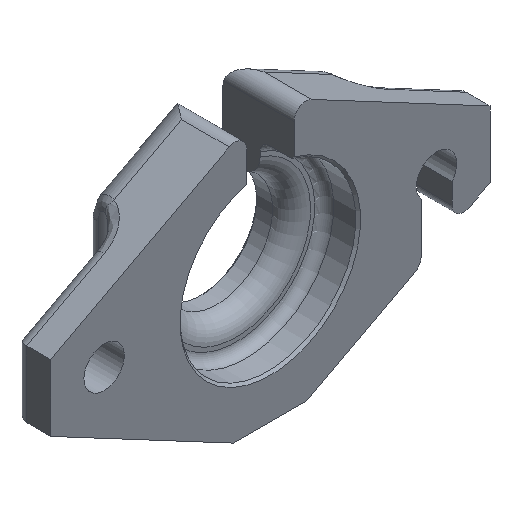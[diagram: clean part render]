
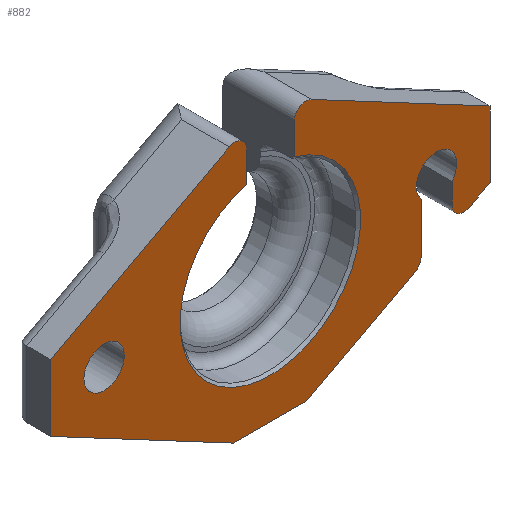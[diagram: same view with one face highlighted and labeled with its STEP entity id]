
A CAD part, isometric view. The second image highlights one B-rep face of the part: STEP entity #882.
In plain terms, the highlighted planar face has unit normal (0, -1, 0).
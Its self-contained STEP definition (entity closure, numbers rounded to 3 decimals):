
#21=FACE_BOUND('',#298,.T.);
#57=PLANE('',#965);
#75=LINE('',#1365,#143);
#95=LINE('',#1756,#163);
#97=LINE('',#1760,#165);
#98=LINE('',#1764,#166);
#99=LINE('',#1768,#167);
#100=LINE('',#1770,#168);
#101=LINE('',#1772,#169);
#102=LINE('',#1777,#170);
#103=LINE('',#1781,#171);
#104=LINE('',#1783,#172);
#105=LINE('',#1785,#173);
#106=LINE('',#1786,#174);
#143=VECTOR('',#1047,10.);
#163=VECTOR('',#1117,10.);
#165=VECTOR('',#1121,10.);
#166=VECTOR('',#1124,10.);
#167=VECTOR('',#1127,10.);
#168=VECTOR('',#1128,10.);
#169=VECTOR('',#1129,10.);
#170=VECTOR('',#1134,10.);
#171=VECTOR('',#1137,10.);
#172=VECTOR('',#1138,10.);
#173=VECTOR('',#1139,10.);
#174=VECTOR('',#1140,10.);
#245=FACE_OUTER_BOUND('',#297,.T.);
#297=EDGE_LOOP('',(#674,#675,#676,#677,#678,#679,#680,#681,#682,#683,#684,
#685,#686,#687,#688,#689,#690,#691));
#298=EDGE_LOOP('',(#692));
#339=CIRCLE('',#942,5.);
#347=CIRCLE('',#966,8.5);
#348=CIRCLE('',#967,5.);
#349=CIRCLE('',#968,5.);
#350=CIRCLE('',#969,38.);
#351=CIRCLE('',#970,5.);
#352=CIRCLE('',#971,8.5);
#388=VERTEX_POINT('',#1360);
#389=VERTEX_POINT('',#1364);
#394=VERTEX_POINT('',#1377);
#395=VERTEX_POINT('',#1379);
#420=VERTEX_POINT('',#1755);
#421=VERTEX_POINT('',#1759);
#422=VERTEX_POINT('',#1761);
#423=VERTEX_POINT('',#1763);
#424=VERTEX_POINT('',#1765);
#425=VERTEX_POINT('',#1767);
#426=VERTEX_POINT('',#1769);
#427=VERTEX_POINT('',#1771);
#428=VERTEX_POINT('',#1774);
#429=VERTEX_POINT('',#1776);
#430=VERTEX_POINT('',#1778);
#431=VERTEX_POINT('',#1780);
#432=VERTEX_POINT('',#1782);
#433=VERTEX_POINT('',#1784);
#434=VERTEX_POINT('',#1787);
#474=EDGE_CURVE('',#389,#388,#75,.T.);
#480=EDGE_CURVE('',#394,#395,#339,.T.);
#517=EDGE_CURVE('',#395,#420,#95,.T.);
#519=EDGE_CURVE('',#421,#394,#97,.T.);
#520=EDGE_CURVE('',#421,#422,#347,.T.);
#521=EDGE_CURVE('',#422,#423,#98,.T.);
#522=EDGE_CURVE('',#424,#423,#348,.T.);
#523=EDGE_CURVE('',#425,#424,#99,.T.);
#524=EDGE_CURVE('',#425,#426,#100,.T.);
#525=EDGE_CURVE('',#426,#427,#101,.T.);
#526=EDGE_CURVE('',#389,#427,#349,.T.);
#527=EDGE_CURVE('',#428,#388,#350,.T.);
#528=EDGE_CURVE('',#429,#428,#102,.T.);
#529=EDGE_CURVE('',#430,#429,#351,.T.);
#530=EDGE_CURVE('',#431,#430,#103,.T.);
#531=EDGE_CURVE('',#432,#431,#104,.T.);
#532=EDGE_CURVE('',#432,#433,#105,.T.);
#533=EDGE_CURVE('',#420,#433,#106,.T.);
#534=EDGE_CURVE('',#434,#434,#352,.T.);
#674=ORIENTED_EDGE('',*,*,#480,.F.);
#675=ORIENTED_EDGE('',*,*,#519,.F.);
#676=ORIENTED_EDGE('',*,*,#520,.T.);
#677=ORIENTED_EDGE('',*,*,#521,.T.);
#678=ORIENTED_EDGE('',*,*,#522,.F.);
#679=ORIENTED_EDGE('',*,*,#523,.F.);
#680=ORIENTED_EDGE('',*,*,#524,.T.);
#681=ORIENTED_EDGE('',*,*,#525,.T.);
#682=ORIENTED_EDGE('',*,*,#526,.F.);
#683=ORIENTED_EDGE('',*,*,#474,.T.);
#684=ORIENTED_EDGE('',*,*,#527,.F.);
#685=ORIENTED_EDGE('',*,*,#528,.F.);
#686=ORIENTED_EDGE('',*,*,#529,.F.);
#687=ORIENTED_EDGE('',*,*,#530,.F.);
#688=ORIENTED_EDGE('',*,*,#531,.F.);
#689=ORIENTED_EDGE('',*,*,#532,.T.);
#690=ORIENTED_EDGE('',*,*,#533,.F.);
#691=ORIENTED_EDGE('',*,*,#517,.F.);
#692=ORIENTED_EDGE('',*,*,#534,.F.);
#882=ADVANCED_FACE('',(#245,#21),#57,.F.);
#942=AXIS2_PLACEMENT_3D('',#1380,#1055,#1056);
#965=AXIS2_PLACEMENT_3D('',#1758,#1119,#1120);
#966=AXIS2_PLACEMENT_3D('',#1762,#1122,#1123);
#967=AXIS2_PLACEMENT_3D('',#1766,#1125,#1126);
#968=AXIS2_PLACEMENT_3D('',#1773,#1130,#1131);
#969=AXIS2_PLACEMENT_3D('',#1775,#1132,#1133);
#970=AXIS2_PLACEMENT_3D('',#1779,#1135,#1136);
#971=AXIS2_PLACEMENT_3D('',#1788,#1141,#1142);
#1047=DIRECTION('',(0.,0.,-1.));
#1055=DIRECTION('center_axis',(0.,1.,0.));
#1056=DIRECTION('ref_axis',(0.857,0.,-0.515));
#1117=DIRECTION('',(-0.883,0.,-0.469));
#1119=DIRECTION('center_axis',(0.,1.,0.));
#1120=DIRECTION('ref_axis',(1.,0.,0.));
#1121=DIRECTION('',(0.,0.,-1.));
#1122=DIRECTION('center_axis',(0.,1.,0.));
#1123=DIRECTION('ref_axis',(1.,0.,0.));
#1124=DIRECTION('',(0.,0.,-1.));
#1125=DIRECTION('center_axis',(0.,1.,0.));
#1126=DIRECTION('ref_axis',(-0.515,0.,-0.857));
#1127=DIRECTION('',(-0.883,0.,-0.469));
#1128=DIRECTION('',(0.,0.,1.));
#1129=DIRECTION('',(-0.883,0.,0.469));
#1130=DIRECTION('center_axis',(0.,1.,0.));
#1131=DIRECTION('ref_axis',(-1.,0.,0.));
#1132=DIRECTION('center_axis',(0.,-1.,0.));
#1133=DIRECTION('ref_axis',(1.,0.,0.));
#1134=DIRECTION('',(0.,0.,-1.));
#1135=DIRECTION('center_axis',(0.,1.,0.));
#1136=DIRECTION('ref_axis',(-0.469,0.,0.883));
#1137=DIRECTION('',(0.883,0.,0.469));
#1138=DIRECTION('',(0.,0.,1.));
#1139=DIRECTION('',(0.883,0.,-0.469));
#1140=DIRECTION('',(-1.,0.,0.));
#1141=DIRECTION('center_axis',(0.,-1.,0.));
#1142=DIRECTION('ref_axis',(1.,0.,0.));
#1360=CARTESIAN_POINT('',(10.,0.,36.661));
#1364=CARTESIAN_POINT('',(10.,0.,49.545));
#1365=CARTESIAN_POINT('',(10.,0.,55.));
#1377=CARTESIAN_POINT('',(63.5,0.,-26.415));
#1379=CARTESIAN_POINT('',(60.847,0.,-30.83));
#1380=CARTESIAN_POINT('Origin',(58.5,0.,-26.415));
#1755=CARTESIAN_POINT('',(15.39,0.,-55.));
#1756=CARTESIAN_POINT('',(92.5,0.,-14.));
#1758=CARTESIAN_POINT('Origin',(0.,0.,0.));
#1759=CARTESIAN_POINT('',(63.5,0.,-5.477));
#1760=CARTESIAN_POINT('',(63.5,0.,0.));
#1761=CARTESIAN_POINT('',(76.5,0.,-5.477));
#1762=CARTESIAN_POINT('Origin',(70.,0.,0.));
#1763=CARTESIAN_POINT('',(76.5,0.,-14.186));
#1764=CARTESIAN_POINT('',(76.5,0.,0.));
#1765=CARTESIAN_POINT('',(83.847,0.,-18.601));
#1766=CARTESIAN_POINT('Origin',(81.5,0.,-14.186));
#1767=CARTESIAN_POINT('',(92.5,0.,-14.));
#1768=CARTESIAN_POINT('',(92.5,0.,-14.));
#1769=CARTESIAN_POINT('',(92.5,0.,14.));
#1770=CARTESIAN_POINT('',(92.5,0.,0.));
#1771=CARTESIAN_POINT('',(17.347,0.,53.959));
#1772=CARTESIAN_POINT('',(92.5,0.,14.));
#1773=CARTESIAN_POINT('Origin',(15.,0.,49.545));
#1774=CARTESIAN_POINT('',(-10.,0.,36.661));
#1775=CARTESIAN_POINT('Origin',(0.,0.,0.));
#1776=CARTESIAN_POINT('',(-10.,0.,49.545));
#1777=CARTESIAN_POINT('',(-10.,0.,55.));
#1778=CARTESIAN_POINT('',(-17.347,0.,53.959));
#1779=CARTESIAN_POINT('Origin',(-15.,0.,49.545));
#1780=CARTESIAN_POINT('',(-92.5,0.,14.));
#1781=CARTESIAN_POINT('',(-92.5,0.,14.));
#1782=CARTESIAN_POINT('',(-92.5,0.,-14.));
#1783=CARTESIAN_POINT('',(-92.5,0.,0.));
#1784=CARTESIAN_POINT('',(-15.39,0.,-55.));
#1785=CARTESIAN_POINT('',(-92.5,0.,-14.));
#1786=CARTESIAN_POINT('',(15.39,0.,-55.));
#1787=CARTESIAN_POINT('',(-78.5,0.,0.));
#1788=CARTESIAN_POINT('Origin',(-70.,0.,0.));
